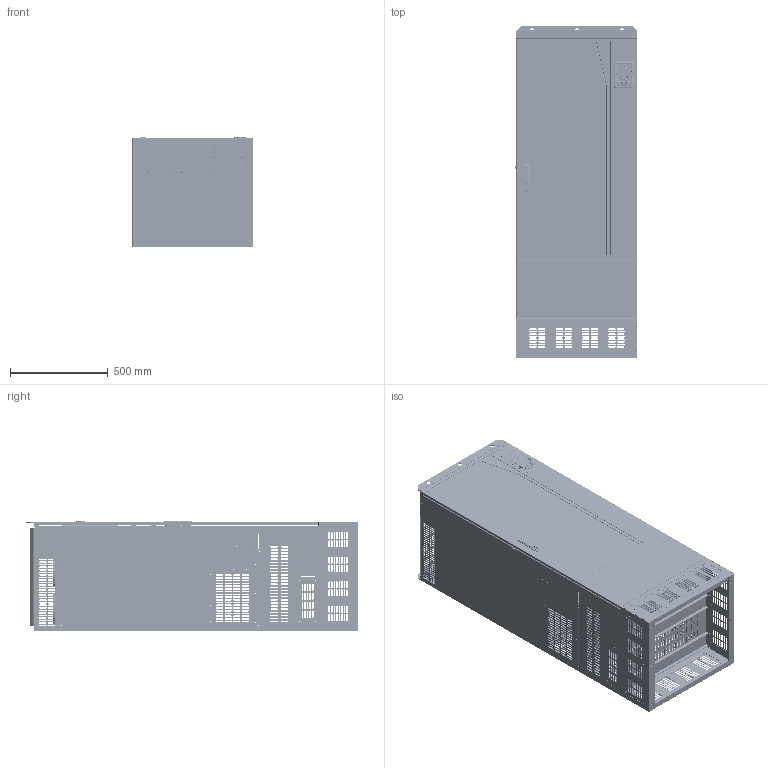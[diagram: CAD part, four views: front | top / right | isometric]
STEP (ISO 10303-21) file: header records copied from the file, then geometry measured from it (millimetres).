
FILE_DESCRIPTION((''),'2;1');
FILE_NAME('Open CASCADE Shape Model','2021-03-30T09:36:13',( 'Administrator'),(''),'Open CASCADE STEP processor 7.6', 'PRO/ENGINEER BY PARAMETRIC TECHNOLOGY CORPORATION, 2010280','Unknown' );
FILE_SCHEMA(('AUTOMOTIVE_DESIGN_CC2 { 1 2 10303 214 -1 1 5 4 }'));
Length unit declared in the file: millimetre
Products named in the file (127): GD350-500G-4_ASM; 40800963_ASM; 61061126_ASM; 80380254_ASM; 80380254; S-M4-ZC; 80380229_ASM; 80380229; S-M5-ZC; BSO-M4-16-ZC; BSO-M4-12-ZC; 80380274_ASM; 80380274; 80380226; 80380230; 80380245_ASM; 80380245; 80380127_ASM; 80380127; S-M8-ZC; 80380250; 80380237; 80380219; 80380244_ASM; 80380244; 80380251_ASM; 80380251; JIEDILUODING-R; 80380239_ASM; 80380239; 80380236_ASM; 80380236; 80380227; 80380228; 80380273; 80380232_ASM; 80380232; 80380272_ASM; 80380272; 80380248_ASM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
Assembly tree (356 placements, depth 6):
  GD350-500G-4_ASM
    40800963_ASM
      61061126_ASM
        80380254_ASM
          80380254
          S-M4-ZC  x4
        80380229_ASM
          80380229
          S-M4-ZC  x36
          S-M5-ZC  x6
          BSO-M4-16-ZC  x4
          BSO-M4-12-ZC  x4
        80380274_ASM
          80380274
          S-M5-ZC  x12
        80380226  x2
        80380230
        80380245_ASM  x2
          80380245
          S-M4-ZC
        80380127_ASM  x10
          80380127
          S-M8-ZC
        80380250
        80380237  x2
        80380219
        80380244_ASM
          80380244
          S-M5-ZC  x2
        80380251_ASM
          80380251
          S-M4-ZC  x18
          JIEDILUODING-R
        80380239_ASM  x2
          80380239
        80380236_ASM
          80380236
          S-M5-ZC
        80380227
        80380228
        80380273  x2
        80380232_ASM  x2
          80380232
        80380272_ASM  x2
          80380272
          S-M4-ZC
        80380248_ASM  x2
          80380248
          S-M5-ZC
        80380271
        80380300_ASM  x4
          80380300
        GB12617_4_4X10_SL  x9
        80380131_ASM
          80380131
          S-M5-ZC  x3
        80380583_ASM
          80380583
          S-M5-ZC
        80380584
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Bounding box: 628.9 x 1700 x 568 mm (x, y, z)
Volume: 18929557.9 mm3; surface area: 17738228.8 mm2
Topology: 381 solids, 381 shells, 31614 faces, 83560 edges, 53839 vertices
Faces by surface type: plane 19265, cylinder 8689, cone 2093, bspline 767, torus 445, sphere 172, extrusion 150, revolution 33
Entity records: 499470 total; most frequent: CARTESIAN_POINT 130463, ORIENTED_EDGE 76040, DIRECTION 75839, EDGE_CURVE 38020, AXIS2_PLACEMENT_3D 26224, VERTEX_POINT 24302, VECTOR 23374, LINE 23242
